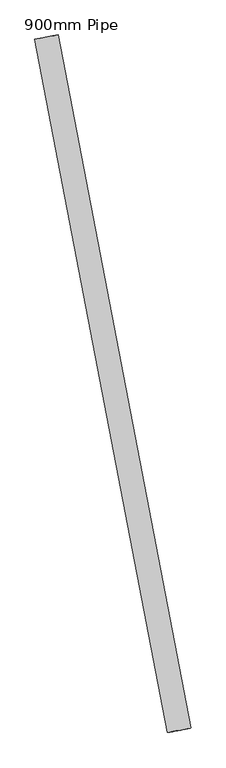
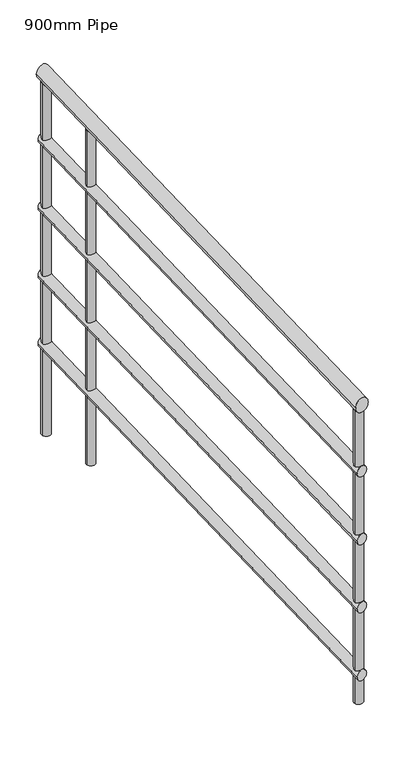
"""IFC4 building model written with IfcOpenShell, lengths in millimetres: railing geometry, 900mm Pipe."""

from ifc_helpers import new_model, si_unit, frame, origin, place, context, project, spatial, circle_curve, ellipse_curve, source, transform, mapped, element, save
from ifc_brep_helpers import plane_surface, cylinder_surface, advanced_brep


def railing_900mm_pipe_ac547a56(model_context):
    return source(origin(), model_context, "Body", "AdvancedBrep", [
        advanced_brep(
        [(952507.2417912, -6319.0615981, 9458.386247), (952467.9538357, -6326.5753558, 9458.386247), (952286.1829941, -5163.1887874, 9816.9744823), (952246.8950386, -5170.702545, 9816.9744823)],
        [
            (0, 1, ellipse_curve(frame((952487.5978134, -6322.8184769, 9458.386247), z_axis=(0.1878439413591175, -0.9821988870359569, 0.0), x_axis=(0.0, 0.0, -1.0)), 20.9078706, 20.0)),
            (1, 0, ellipse_curve(frame((952487.5978134, -6322.8184769, 9458.386247), z_axis=(0.1878439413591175, -0.9821988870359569, 0.0), x_axis=(0.0, 0.0, -1.0)), 20.9078706, 20.0)),
            (2, 3, ellipse_curve(frame((952266.5390164, -5166.9456662, 9816.9744823), z_axis=(-0.1878439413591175, 0.9821988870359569, 0.0), x_axis=(0.0, 0.0, -1.0)), 20.9078706, 20.0)),
            (3, 2, ellipse_curve(frame((952266.5390164, -5166.9456662, 9816.9744823), z_axis=(-0.1878439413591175, 0.9821988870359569, 0.0), x_axis=(0.0, 0.0, -1.0)), 20.9078706, 20.0)),
            (1, 3),
            (2, 0),
        ],
        [
            plane_surface(frame((952487.5978134, -6322.8184769, 9479.2941176), z_axis=(0.1878439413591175, -0.9821988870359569, 0.0), x_axis=(0.9821988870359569, 0.1878439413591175, 0.0))),
            plane_surface(frame((952266.5390164, -5166.9456662, 9837.8823529), z_axis=(-0.1878439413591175, 0.9821988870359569, 0.0), x_axis=(0.9821988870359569, 0.1878439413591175, 0.0))),
            cylinder_surface(frame((952486.5027663, -6317.0926917, 9460.1625663), z_axis=(0.17968730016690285, -0.9395494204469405, -0.2914778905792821), x_axis=(-0.9821988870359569, -0.18784394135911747, 0.0)), 20.0),
        ],
        [
            (0, [[1, 2]]),
            (1, [[3, 4]]),
            (2, [[-2, 5, -3, 6]]),
            (2, [[-1, -6, -4, -5]]),
        ],
    ),
        advanced_brep(
        [(952502.3307968, -6320.0008178, 9263.6132147), (952472.8648301, -6325.636136, 9263.6132147), (952281.2719997, -5164.1280071, 9622.20145), (952251.806033, -5169.7633253, 9622.20145)],
        [
            (0, 1, ellipse_curve(frame((952487.5978134, -6322.8184769, 9263.6132147), z_axis=(0.1878439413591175, -0.9821988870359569, 0.0), x_axis=(0.0, 0.0, -1.0)), 15.680903, 15.0)),
            (1, 0, ellipse_curve(frame((952487.5978134, -6322.8184769, 9263.6132147), z_axis=(0.1878439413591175, -0.9821988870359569, 0.0), x_axis=(0.0, 0.0, -1.0)), 15.680903, 15.0)),
            (2, 3, ellipse_curve(frame((952266.5390164, -5166.9456662, 9622.20145), z_axis=(-0.1878439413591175, 0.9821988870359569, 0.0), x_axis=(0.0, 0.0, -1.0)), 15.680903, 15.0)),
            (3, 2, ellipse_curve(frame((952266.5390164, -5166.9456662, 9622.20145), z_axis=(-0.1878439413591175, 0.9821988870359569, 0.0), x_axis=(0.0, 0.0, -1.0)), 15.680903, 15.0)),
            (0, 2),
            (3, 1),
        ],
        [
            plane_surface(frame((952487.5978134, -6322.8184769, 9279.2941176), z_axis=(0.1878439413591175, -0.9821988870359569, 0.0), x_axis=(0.9821988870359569, 0.1878439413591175, 0.0))),
            plane_surface(frame((952266.5390164, -5166.9456662, 9637.8823529), z_axis=(-0.1878439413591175, 0.9821988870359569, 0.0), x_axis=(0.9821988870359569, 0.1878439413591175, 0.0))),
            cylinder_surface(frame((952486.7765281, -6318.524138, 9264.9454542), z_axis=(0.17968730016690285, -0.9395494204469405, -0.2914778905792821), x_axis=(-0.9821988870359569, -0.18784394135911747, 0.0)), 15.0),
        ],
        [
            (0, [[1, 2]]),
            (1, [[3, 4]]),
            (2, [[-1, 5, -4, 6]]),
            (2, [[-2, -6, -3, -5]]),
        ],
    ),
        advanced_brep(
        [(952502.3307968, -6320.0008178, 9063.6132147), (952472.8648301, -6325.636136, 9063.6132147), (952281.2719997, -5164.1280071, 9422.20145), (952251.806033, -5169.7633253, 9422.20145)],
        [
            (0, 1, ellipse_curve(frame((952487.5978134, -6322.8184769, 9063.6132147), z_axis=(0.1878439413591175, -0.9821988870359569, 0.0), x_axis=(0.0, 0.0, -1.0)), 15.680903, 15.0)),
            (1, 0, ellipse_curve(frame((952487.5978134, -6322.8184769, 9063.6132147), z_axis=(0.1878439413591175, -0.9821988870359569, 0.0), x_axis=(0.0, 0.0, -1.0)), 15.680903, 15.0)),
            (2, 3, ellipse_curve(frame((952266.5390164, -5166.9456662, 9422.20145), z_axis=(-0.1878439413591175, 0.9821988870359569, 0.0), x_axis=(0.0, 0.0, -1.0)), 15.680903, 15.0)),
            (3, 2, ellipse_curve(frame((952266.5390164, -5166.9456662, 9422.20145), z_axis=(-0.1878439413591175, 0.9821988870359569, 0.0), x_axis=(0.0, 0.0, -1.0)), 15.680903, 15.0)),
            (0, 2),
            (3, 1),
        ],
        [
            plane_surface(frame((952487.5978134, -6322.8184769, 9079.2941176), z_axis=(0.1878439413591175, -0.9821988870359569, 0.0), x_axis=(0.9821988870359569, 0.1878439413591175, 0.0))),
            plane_surface(frame((952266.5390164, -5166.9456662, 9437.8823529), z_axis=(-0.1878439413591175, 0.9821988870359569, 0.0), x_axis=(0.9821988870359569, 0.1878439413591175, 0.0))),
            cylinder_surface(frame((952486.7765281, -6318.524138, 9064.9454542), z_axis=(0.17968730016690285, -0.9395494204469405, -0.2914778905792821), x_axis=(-0.9821988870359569, -0.18784394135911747, 0.0)), 15.0),
        ],
        [
            (0, [[1, 2]]),
            (1, [[3, 4]]),
            (2, [[-1, 5, -4, 6]]),
            (2, [[-2, -6, -3, -5]]),
        ],
    ),
        advanced_brep(
        [(952502.3307968, -6320.0008178, 8863.6132147), (952472.8648301, -6325.636136, 8863.6132147), (952281.2719997, -5164.1280071, 9222.20145), (952251.806033, -5169.7633253, 9222.20145)],
        [
            (0, 1, ellipse_curve(frame((952487.5978134, -6322.8184769, 8863.6132147), z_axis=(0.1878439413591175, -0.9821988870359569, 0.0), x_axis=(0.0, 0.0, -1.0)), 15.680903, 15.0)),
            (1, 0, ellipse_curve(frame((952487.5978134, -6322.8184769, 8863.6132147), z_axis=(0.1878439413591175, -0.9821988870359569, 0.0), x_axis=(0.0, 0.0, -1.0)), 15.680903, 15.0)),
            (2, 3, ellipse_curve(frame((952266.5390164, -5166.9456662, 9222.20145), z_axis=(-0.1878439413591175, 0.9821988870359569, 0.0), x_axis=(0.0, 0.0, -1.0)), 15.680903, 15.0)),
            (3, 2, ellipse_curve(frame((952266.5390164, -5166.9456662, 9222.20145), z_axis=(-0.1878439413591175, 0.9821988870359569, 0.0), x_axis=(0.0, 0.0, -1.0)), 15.680903, 15.0)),
            (0, 2),
            (3, 1),
        ],
        [
            plane_surface(frame((952487.5978134, -6322.8184769, 8879.2941176), z_axis=(0.1878439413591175, -0.9821988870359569, 0.0), x_axis=(0.9821988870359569, 0.1878439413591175, 0.0))),
            plane_surface(frame((952266.5390164, -5166.9456662, 9237.8823529), z_axis=(-0.1878439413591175, 0.9821988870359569, 0.0), x_axis=(0.9821988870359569, 0.1878439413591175, 0.0))),
            cylinder_surface(frame((952486.7765281, -6318.524138, 8864.9454542), z_axis=(0.17968730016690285, -0.9395494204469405, -0.2914778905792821), x_axis=(-0.9821988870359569, -0.18784394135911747, 0.0)), 15.0),
        ],
        [
            (0, [[1, 2]]),
            (1, [[3, 4]]),
            (2, [[-1, 5, -4, 6]]),
            (2, [[-2, -6, -3, -5]]),
        ],
    ),
        advanced_brep(
        [(952502.3307968, -6320.0008178, 8663.6132147), (952472.8648301, -6325.636136, 8663.6132147), (952281.2719997, -5164.1280071, 9022.20145), (952251.806033, -5169.7633253, 9022.20145)],
        [
            (0, 1, ellipse_curve(frame((952487.5978134, -6322.8184769, 8663.6132147), z_axis=(0.1878439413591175, -0.9821988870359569, 0.0), x_axis=(0.0, 0.0, -1.0)), 15.680903, 15.0)),
            (1, 0, ellipse_curve(frame((952487.5978134, -6322.8184769, 8663.6132147), z_axis=(0.1878439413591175, -0.9821988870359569, 0.0), x_axis=(0.0, 0.0, -1.0)), 15.680903, 15.0)),
            (2, 3, ellipse_curve(frame((952266.5390164, -5166.9456662, 9022.20145), z_axis=(-0.1878439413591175, 0.9821988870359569, 0.0), x_axis=(0.0, 0.0, -1.0)), 15.680903, 15.0)),
            (3, 2, ellipse_curve(frame((952266.5390164, -5166.9456662, 9022.20145), z_axis=(-0.1878439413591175, 0.9821988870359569, 0.0), x_axis=(0.0, 0.0, -1.0)), 15.680903, 15.0)),
            (0, 2),
            (3, 1),
        ],
        [
            plane_surface(frame((952487.5978134, -6322.8184769, 8679.2941176), z_axis=(0.1878439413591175, -0.9821988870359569, 0.0), x_axis=(0.9821988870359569, 0.1878439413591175, 0.0))),
            plane_surface(frame((952266.5390164, -5166.9456662, 9037.8823529), z_axis=(-0.1878439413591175, 0.9821988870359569, 0.0), x_axis=(0.9821988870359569, 0.1878439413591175, 0.0))),
            cylinder_surface(frame((952486.7765281, -6318.524138, 8664.9454542), z_axis=(0.17968730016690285, -0.9395494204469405, -0.2914778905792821), x_axis=(-0.9821988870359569, -0.18784394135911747, 0.0)), 15.0),
        ],
        [
            (0, [[1, 2]]),
            (1, [[3, 4]]),
            (2, [[-1, 5, -4, 6]]),
            (2, [[-2, -6, -3, -5]]),
        ],
    ),
        advanced_brep(
        [(952287.476386, -5342.9676392, 9742.1874779), (952312.0313582, -5338.2715406, 9742.1874779), (952312.0313582, -5338.2715406, 8758.5882353), (952287.476386, -5342.9676392, 8758.5882353)],
        [
            (0, 1, ellipse_curve(frame((952299.7538721, -5340.6195899, 9742.1874779), z_axis=(-0.05475235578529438, 0.28628925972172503, -0.9565775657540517), x_axis=(-0.17968730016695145, 0.9395494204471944, 0.29147789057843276)), 13.0674191, 12.5)),
            (1, 2),
            (2, 3, circle_curve(frame((952299.7538721, -5340.6195899, 8758.5882353), z_axis=(0.0, 0.0, 1.0), x_axis=(0.9821988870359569, 0.1878439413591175, 0.0)), 12.5)),
            (3, 0),
            (3, 2, circle_curve(frame((952299.7538721, -5340.6195899, 8758.5882353), z_axis=(0.0, 0.0, 1.0), x_axis=(0.9821988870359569, 0.1878439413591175, 0.0)), 12.5)),
            (1, 0, ellipse_curve(frame((952299.7538721, -5340.6195899, 9742.1874779), z_axis=(-0.05475235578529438, 0.28628925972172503, -0.9565775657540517), x_axis=(-0.17968730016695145, 0.9395494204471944, 0.29147789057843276)), 13.0674191, 12.5)),
        ],
        [
            cylinder_surface(frame((952299.7538721, -5340.6195899, 8658.5882353), z_axis=(0.0, 0.0, 1.0), x_axis=(0.9821988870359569, 0.1878439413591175, 0.0)), 12.5),
            plane_surface(frame((952319.6127457, -5311.3685192, 9749.8052054), z_axis=(0.05475235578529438, -0.28628925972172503, 0.9565775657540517), x_axis=(-0.9821988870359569, -0.1878439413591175, 0.0))),
            plane_surface(frame((952329.0049428, -5360.4784635, 8758.5882353), z_axis=(0.0, 0.0, -1.0), x_axis=(-0.9821988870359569, -0.1878439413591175, 0.0))),
        ],
        [
            (0, [[1, 2, 3, 4]]),
            (0, [[5, -2, 6, -4]]),
            (1, [[-6, -1]]),
            (2, [[-5, -3]]),
        ],
    ),
        advanced_brep(
        [(952256.6095795, -5181.5712016, 9792.2577479), (952281.1645517, -5176.875103, 9792.2577479), (952281.1645517, -5176.875103, 8758.5882353), (952256.6095795, -5181.5712016, 8758.5882353)],
        [
            (0, 1, ellipse_curve(frame((952268.8870656, -5179.2231523, 9792.2577479), z_axis=(-0.05475235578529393, 0.2862892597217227, -0.9565775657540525), x_axis=(-0.1796873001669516, 0.9395494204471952, 0.2914778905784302)), 13.0674191, 12.5)),
            (1, 2),
            (2, 3, circle_curve(frame((952268.8870656, -5179.2231523, 8758.5882353), z_axis=(0.0, 0.0, 1.0), x_axis=(0.9821988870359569, 0.1878439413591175, 0.0)), 12.5)),
            (3, 0),
            (3, 2, circle_curve(frame((952268.8870656, -5179.2231523, 8758.5882353), z_axis=(0.0, 0.0, 1.0), x_axis=(0.9821988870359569, 0.1878439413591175, 0.0)), 12.5)),
            (1, 0, ellipse_curve(frame((952268.8870656, -5179.2231523, 9792.2577479), z_axis=(-0.05475235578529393, 0.2862892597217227, -0.9565775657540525), x_axis=(-0.1796873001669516, 0.9395494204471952, 0.2914778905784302)), 13.0674191, 12.5)),
        ],
        [
            cylinder_surface(frame((952268.8870656, -5179.2231523, 8658.5882353), z_axis=(0.0, 0.0, 1.0), x_axis=(0.9821988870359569, 0.1878439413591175, 0.0)), 12.5),
            plane_surface(frame((952288.7459393, -5149.9720816, 9799.8754754), z_axis=(0.05475235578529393, -0.2862892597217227, 0.9565775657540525), x_axis=(-0.9821988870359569, -0.1878439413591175, 0.0))),
            plane_surface(frame((952298.1381363, -5199.0820259, 8758.5882353), z_axis=(0.0, 0.0, -1.0), x_axis=(-0.9821988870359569, -0.1878439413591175, 0.0))),
        ],
        [
            (0, [[1, 2, 3, 4]]),
            (0, [[5, -2, 6, -4]]),
            (1, [[-6, -1]]),
            (2, [[-5, -3]]),
        ],
    ),
        advanced_brep(
        [(952472.9722781, -6312.8890401, 9441.2872401), (952497.5272503, -6308.1929416, 9441.2872401), (952497.5272503, -6308.1929416, 8579.2941176), (952472.9722781, -6312.8890401, 8579.2941176)],
        [
            (0, 1, ellipse_curve(frame((952485.2497642, -6310.5409908, 9441.2872401), z_axis=(-0.05475235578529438, 0.28628925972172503, -0.9565775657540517), x_axis=(-0.17968730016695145, 0.9395494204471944, 0.29147789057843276)), 13.0674191, 12.5)),
            (1, 2),
            (2, 3, circle_curve(frame((952485.2497642, -6310.5409908, 8579.2941176), z_axis=(0.0, 0.0, 1.0), x_axis=(0.9821988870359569, 0.1878439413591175, 0.0)), 12.5)),
            (3, 0),
            (3, 2, circle_curve(frame((952485.2497642, -6310.5409908, 8579.2941176), z_axis=(0.0, 0.0, 1.0), x_axis=(0.9821988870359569, 0.1878439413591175, 0.0)), 12.5)),
            (1, 0, ellipse_curve(frame((952485.2497642, -6310.5409908, 9441.2872401), z_axis=(-0.05475235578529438, 0.28628925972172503, -0.9565775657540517), x_axis=(-0.17968730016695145, 0.9395494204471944, 0.29147789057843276)), 13.0674191, 12.5)),
        ],
        [
            cylinder_surface(frame((952485.2497642, -6310.5409908, 8479.2941176), z_axis=(0.0, 0.0, 1.0), x_axis=(0.9821988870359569, 0.1878439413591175, 0.0)), 12.5),
            plane_surface(frame((952505.1086378, -6281.2899201, 9448.9049677), z_axis=(0.05475235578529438, -0.28628925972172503, 0.9565775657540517), x_axis=(-0.9821988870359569, -0.1878439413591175, 0.0))),
            plane_surface(frame((952514.5008349, -6330.3998645, 8579.2941176), z_axis=(0.0, 0.0, -1.0), x_axis=(-0.9821988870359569, -0.1878439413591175, 0.0))),
        ],
        [
            (0, [[1, 2, 3, 4]]),
            (0, [[5, -2, 6, -4]]),
            (1, [[-6, -1]]),
            (2, [[-5, -3]]),
        ],
    ),
    ])


if __name__ == "__main__":
    model = new_model("IFC4")
    model_context = context("Model", 3, world=origin())
    ifc_project = project(units=[si_unit("LENGTHUNIT", "METRE", prefix="MILLI")], contexts=[model_context])
    site = spatial("IfcSite", under=ifc_project)
    building = spatial("IfcBuilding", under=site)
    placement = place(None, origin())
    railing_900mm_pipe_shape = railing_900mm_pipe_ac547a56(model_context)
    element("IfcRailing", 1, ObjectType="900mm Pipe", at=placement, inside=building, context=model_context, shape_type="MappedRepresentation", body=[
        mapped(railing_900mm_pipe_shape, transform((0.0, 0.0, 0.0), x_axis=(1.0, 0.0, 0.0), y_axis=(0.0, 1.0, 0.0), z_axis=(0.0, 0.0, 1.0))),
    ])
    save(model, "model.ifc")
